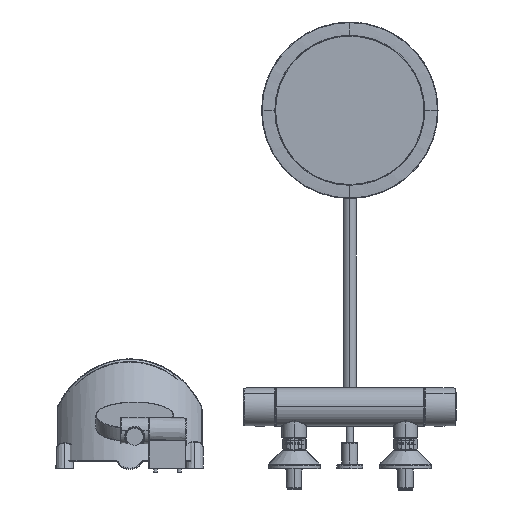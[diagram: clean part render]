
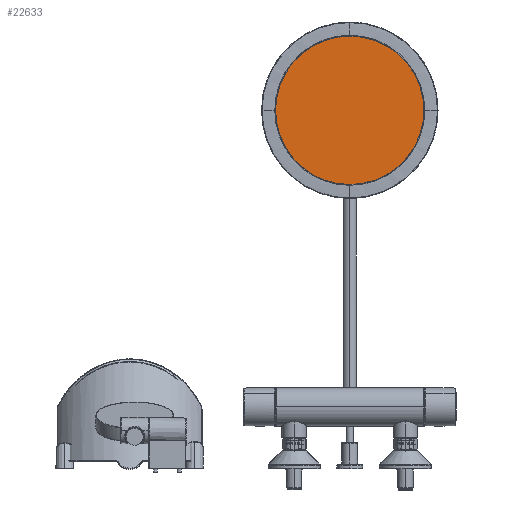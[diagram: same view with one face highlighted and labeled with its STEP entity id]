
A CAD part, front view. The second image highlights one B-rep face of the part: STEP entity #22633.
In plain terms, the highlighted planar face has unit normal (0, -1, 0).
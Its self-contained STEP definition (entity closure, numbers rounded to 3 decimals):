
#1016 = FACE_OUTER_BOUND ( 'NONE', #17600, .T. ) ;
#1058 = CARTESIAN_POINT ( 'NONE',  ( -0.048, 839.612, 383.295 ) ) ;
#2024 = CARTESIAN_POINT ( 'NONE',  ( -0.048, 839.612, 483.308 ) ) ;
#2061 = DIRECTION ( 'NONE',  ( 0., 1., 0. ) ) ;
#2212 = EDGE_CURVE ( 'NONE', #26854, #9331, #39493, .T. ) ;
#5518 = DIRECTION ( 'NONE',  ( 1., 0., 0. ) ) ;
#6514 = AXIS2_PLACEMENT_3D ( 'NONE', #2024, #26568, #5518 ) ;
#9261 = ORIENTED_EDGE ( 'NONE', *, *, #2212, .F. ) ;
#9331 = VERTEX_POINT ( 'NONE', #26812 ) ;
#12883 = EDGE_CURVE ( 'NONE', #9331, #26854, #31984, .T. ) ;
#15646 = DIRECTION ( 'NONE',  ( 0., 1., 0. ) ) ;
#17600 = EDGE_LOOP ( 'NONE', ( #9261, #38211 ) ) ;
#22633 = ADVANCED_FACE ( 'NONE', ( #1016 ), #33228, .F. ) ;
#23062 = CARTESIAN_POINT ( 'NONE',  ( -0.048, 839.612, 483.308 ) ) ;
#26568 = DIRECTION ( 'NONE',  ( 0., 1., 0. ) ) ;
#26607 = DIRECTION ( 'NONE',  ( 1., 0., 0. ) ) ;
#26812 = CARTESIAN_POINT ( 'NONE',  ( -0.048, 839.612, 583.321 ) ) ;
#26854 = VERTEX_POINT ( 'NONE', #1058 ) ;
#30130 = AXIS2_PLACEMENT_3D ( 'NONE', #23062, #2061, #26607 ) ;
#31984 = CIRCLE ( 'NONE', #30130, 100.013 ) ;
#33228 = PLANE ( 'NONE',  #43070 ) ;
#36744 = CARTESIAN_POINT ( 'NONE',  ( -0.048, 839.612, 483.308 ) ) ;
#38211 = ORIENTED_EDGE ( 'NONE', *, *, #12883, .F. ) ;
#39493 = CIRCLE ( 'NONE', #6514, 100.013 ) ;
#40239 = DIRECTION ( 'NONE',  ( 1., 0., 0. ) ) ;
#43070 = AXIS2_PLACEMENT_3D ( 'NONE', #36744, #15646, #40239 ) ;
